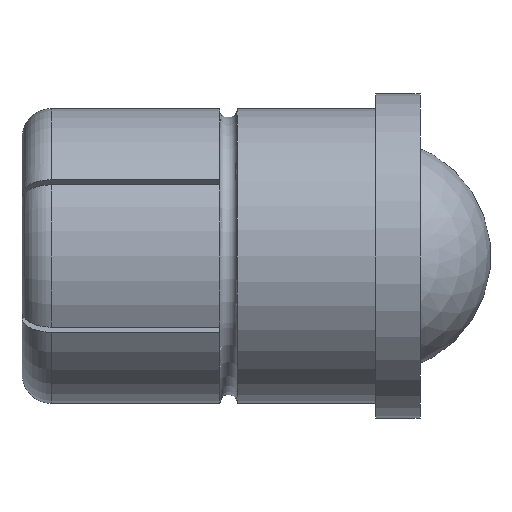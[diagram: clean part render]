
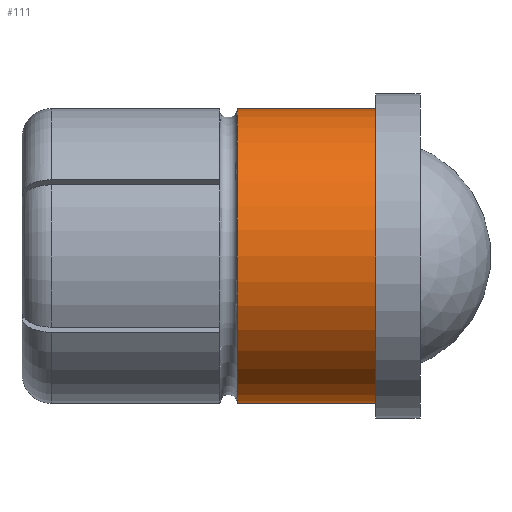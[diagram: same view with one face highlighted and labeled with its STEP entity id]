
A CAD part, front view. The second image highlights one B-rep face of the part: STEP entity #111.
In plain terms, the highlighted cylindrical face has radius 5 mm (diameter 10 mm), a full revolution.
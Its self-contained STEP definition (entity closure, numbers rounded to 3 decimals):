
#111 = ADVANCED_FACE( '', ( #216, #217 ), #218, .T. );
#216 = FACE_OUTER_BOUND( '', #349, .T. );
#217 = FACE_OUTER_BOUND( '', #350, .T. );
#218 = CYLINDRICAL_SURFACE( '', #351, 5. );
#349 = EDGE_LOOP( '', ( #712 ) );
#350 = EDGE_LOOP( '', ( #713 ) );
#351 = AXIS2_PLACEMENT_3D( '', #714, #715, #716 );
#712 = ORIENTED_EDGE( '', *, *, #1045, .F. );
#713 = ORIENTED_EDGE( '', *, *, #1046, .T. );
#714 = CARTESIAN_POINT( '', ( 1.5, 0., 0. ) );
#715 = DIRECTION( '', ( -1., 0., 0. ) );
#716 = DIRECTION( '', ( 0., 0., -1. ) );
#1045 = EDGE_CURVE( '', #1303, #1303, #1304, .T. );
#1046 = EDGE_CURVE( '', #1305, #1305, #1306, .T. );
#1303 = VERTEX_POINT( '', #1789 );
#1304 = CIRCLE( '', #1790, 5. );
#1305 = VERTEX_POINT( '', #1791 );
#1306 = CIRCLE( '', #1792, 5. );
#1789 = CARTESIAN_POINT( '', ( 0., 0., -5. ) );
#1790 = AXIS2_PLACEMENT_3D( '', #2006, #2007, #2008 );
#1791 = CARTESIAN_POINT( '', ( -4.7, 0., -5. ) );
#1792 = AXIS2_PLACEMENT_3D( '', #2009, #2010, #2011 );
#2006 = CARTESIAN_POINT( '', ( 0., 0., 0. ) );
#2007 = DIRECTION( '', ( 1., 0., 0. ) );
#2008 = DIRECTION( '', ( 0., 0., -1. ) );
#2009 = CARTESIAN_POINT( '', ( -4.7, 0., 0. ) );
#2010 = DIRECTION( '', ( 1., 0., 0. ) );
#2011 = DIRECTION( '', ( 0., 0., -1. ) );
